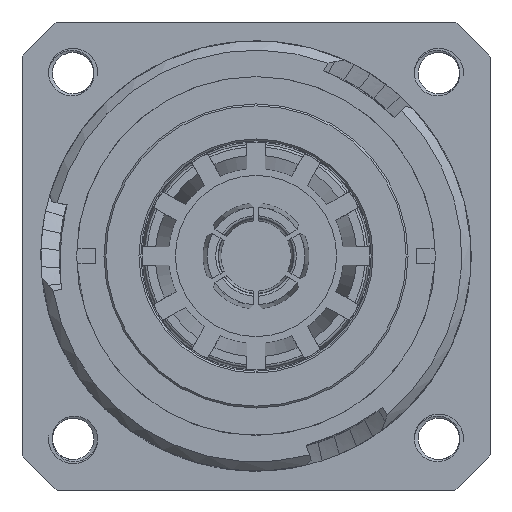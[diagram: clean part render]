
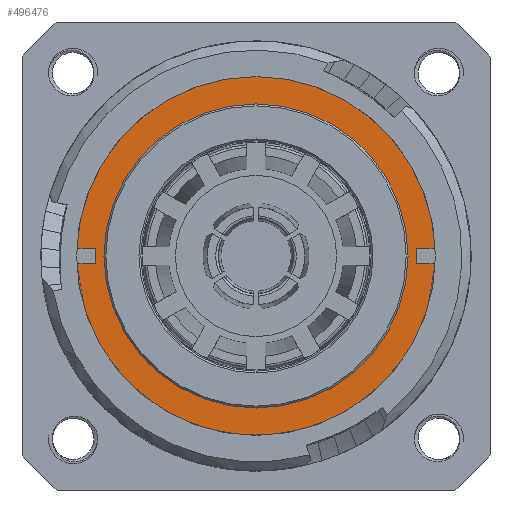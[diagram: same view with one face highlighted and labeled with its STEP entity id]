
A CAD part, left-side view. The second image highlights one B-rep face of the part: STEP entity #496476.
In plain terms, the highlighted planar face has unit normal (-1, 0, 0).
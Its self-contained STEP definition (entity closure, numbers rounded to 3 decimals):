
#149338=CARTESIAN_POINT('',(18.8,0.,0.));
#149339=DIRECTION('',(1.,0.,0.));
#149340=DIRECTION('',(0.,-0.999,0.042));
#149341=AXIS2_PLACEMENT_3D('',#149338,#149339,#149340);
#149343=CARTESIAN_POINT('',(18.8,0.,0.));
#149344=DIRECTION('',(-1.,0.,0.));
#149345=DIRECTION('',(0.,-1.,0.));
#149346=AXIS2_PLACEMENT_3D('',#149343,#149344,#149345);
#149348=CARTESIAN_POINT('',(18.8,0.,0.));
#149349=DIRECTION('',(1.,0.,0.));
#149350=DIRECTION('',(0.,-1.,0.));
#149351=AXIS2_PLACEMENT_3D('',#149348,#149349,#149350);
#149369=CARTESIAN_POINT('',(18.8,0.,0.));
#149370=DIRECTION('',(-1.,0.,0.));
#149371=DIRECTION('',(0.,-0.999,0.042));
#149372=AXIS2_PLACEMENT_3D('',#149369,#149370,#149371);
#151765=CARTESIAN_POINT('',(18.8,-16.5,0.));
#151766=CARTESIAN_POINT('',(18.8,16.5,0.));
#151767=VERTEX_POINT('',#151765);
#151768=VERTEX_POINT('',#151766);
#152287=CARTESIAN_POINT('',(18.8,19.458,0.825));
#152288=VERTEX_POINT('',#152287);
#152293=CARTESIAN_POINT('',(18.8,-19.458,0.825));
#152294=VERTEX_POINT('',#152293);
#496460=CARTESIAN_POINT('',(18.8,0.,0.));
#496461=DIRECTION('',(-1.,0.,0.));
#496462=DIRECTION('',(0.,1.,0.));
#496463=AXIS2_PLACEMENT_3D('',#496460,#496461,#496462);
#496464=PLANE('312',#496463);
#496466=ORIENTED_EDGE('12421',*,*,#496465,.F.);
#496467=ORIENTED_EDGE('12430',*,*,#496427,.T.);
#496468=EDGE_LOOP('312',(#496466,#496467));
#496469=FACE_OUTER_BOUND('312',#496468,.F.);
#496471=ORIENTED_EDGE('11818',*,*,#496470,.T.);
#496473=ORIENTED_EDGE('11817',*,*,#496472,.F.);
#496474=EDGE_LOOP('312',(#496471,#496473));
#496475=FACE_BOUND('312',#496474,.F.);
#149342=CIRCLE('12430',#149341,19.475);
#149347=CIRCLE('11818',#149346,16.5);
#149352=CIRCLE('11817',#149351,16.5);
#149373=CIRCLE('12421',#149372,19.475);
#496427=EDGE_CURVE('12430',#152294,#152288,#149342,.T.);
#496465=EDGE_CURVE('12421',#152294,#152288,#149373,.T.);
#496470=EDGE_CURVE('11818',#151767,#151768,#149347,.T.);
#496472=EDGE_CURVE('11817',#151767,#151768,#149352,.T.);
#496476=ADVANCED_FACE('312',(#496469,#496475),#496464,.T.);
